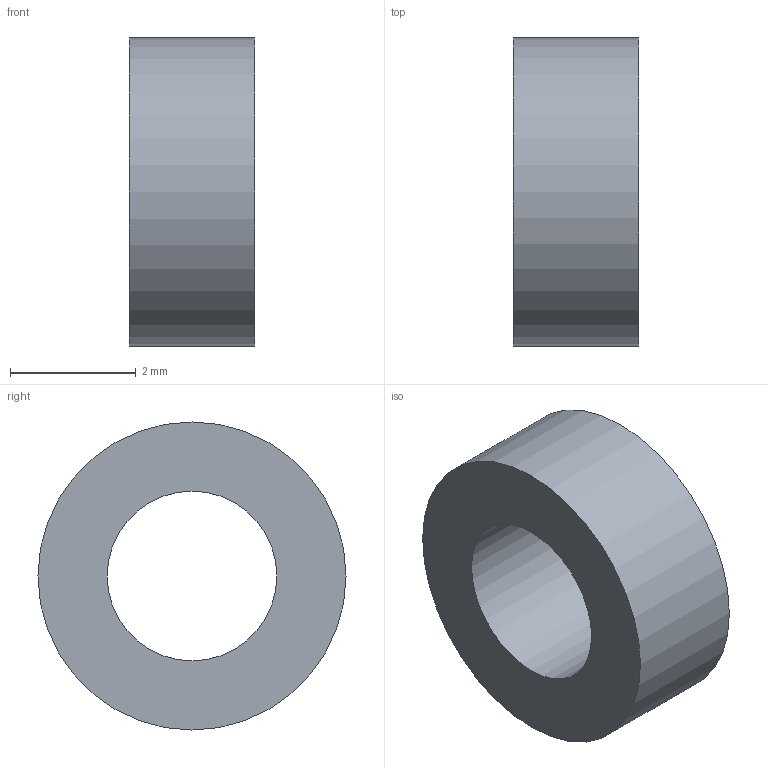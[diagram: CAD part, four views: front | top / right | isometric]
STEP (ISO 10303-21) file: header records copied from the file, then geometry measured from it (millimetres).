
FILE_DESCRIPTION(('Open CASCADE Model'),'2;1');
FILE_NAME('opposite-fsr-pcb-insulating-spacer.step', '2026-11-14T16:52:09',('Author'),('Open CASCADE'), 'Open CASCADE STEP processor 8.0','Open CASCADE 8.0','Unknown');
FILE_SCHEMA(('AP242_MANAGED_MODEL_BASED_3D_ENGINEERING_MIM_LF {1 0 10303 442 1 1 4 }' ));
Length unit declared in the file: millimetre
Products named in the file (1): Opposite FSR PCB Insulating Spacer
Bounding box: 2 x 4.9 x 4.9 mm (x, y, z)
Volume: 26.3 mm3; surface area: 74 mm2
Topology: 1 solids, 1 shells, 4 faces, 6 edges, 4 vertices
Faces by surface type: cylinder 2, plane 2
Full cylindrical faces by diameter (mm): 2.7 x1, 4.9 x1
Entity records: 195 total; most frequent: DIRECTION 32, CARTESIAN_POINT 27, ORIENTED_EDGE 12, PCURVE 12, DEFINITIONAL_REPRESENTATION 12, LINE 10, VECTOR 10, AXIS2_PLACEMENT_3D 9
